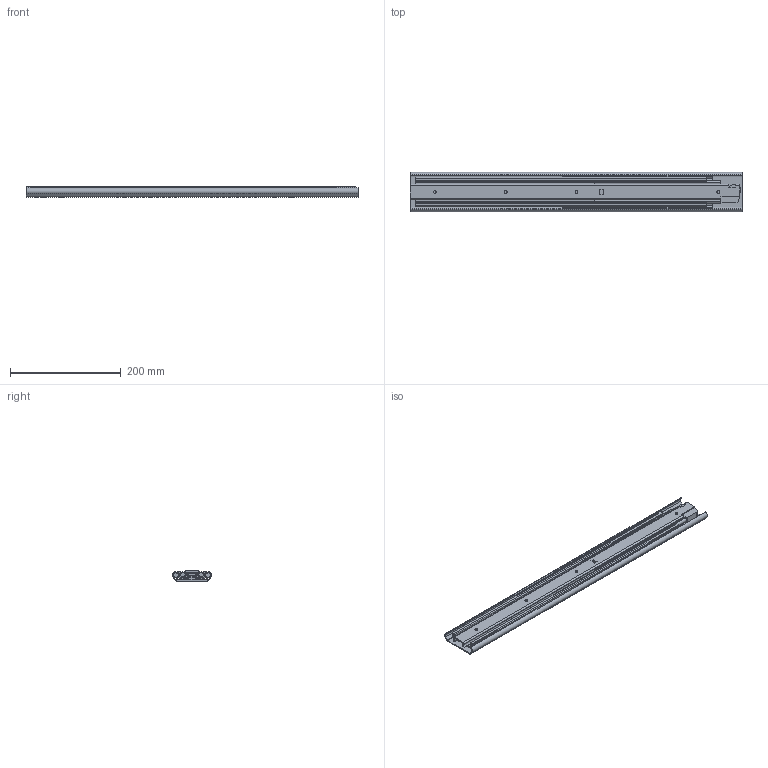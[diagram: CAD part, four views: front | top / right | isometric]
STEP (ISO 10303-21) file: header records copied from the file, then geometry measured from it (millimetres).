
FILE_DESCRIPTION( ( 'STEP AP203' ), '1' );
FILE_NAME( 'C:/Temp/Ganter_Step_05_03_2020/data/3_8/gn1432/Telescopic slide GN 1432-600-B-2-ZB (0).stp', '2020-03-12T15:26:38', ( 'License CC BY-ND 4.0' ), ( 'CADENAS' ), ' ', 'PARTsolutions', ' ' );
FILE_SCHEMA( ( 'CONFIG_CONTROL_DESIGN' ) );
Length unit declared in the file: millimetre
Products named in the file (4): Telescopic slide GN 1432-600-B-2-ZB (0); _Telescopic slide GN 1432-600-B-2-ZB (0)-1; _Telescopic slide GN 1432-600-B-2-ZB (0)-2; _Telescopic slide GN 1432-600-B-2-ZB (0)-3
Assembly tree (3 placements, depth 2):
  Telescopic slide GN 1432-600-B-2-ZB (0)
    _Telescopic slide GN 1432-600-B-2-ZB (0)-1
    _Telescopic slide GN 1432-600-B-2-ZB (0)-2
    _Telescopic slide GN 1432-600-B-2-ZB (0)-3
Bounding box: 600 x 70.88 x 18.4 mm (x, y, z)
Volume: 348043.4 mm3; surface area: 325603.4 mm2
Topology: 3 solids, 3 shells, 305 faces, 887 edges, 582 vertices
Faces by surface type: plane 181, cylinder 116, cone 8
Full cylindrical faces by diameter (mm): 5 x4, 6.5 x4, 11 x3
Entity records: 10162 total; most frequent: CARTESIAN_POINT 1773, DIRECTION 1731, ORIENTED_EDGE 1730, EDGE_CURVE 865, LINE 605, VECTOR 605, VERTEX_POINT 579, AXIS2_PLACEMENT_3D 563
